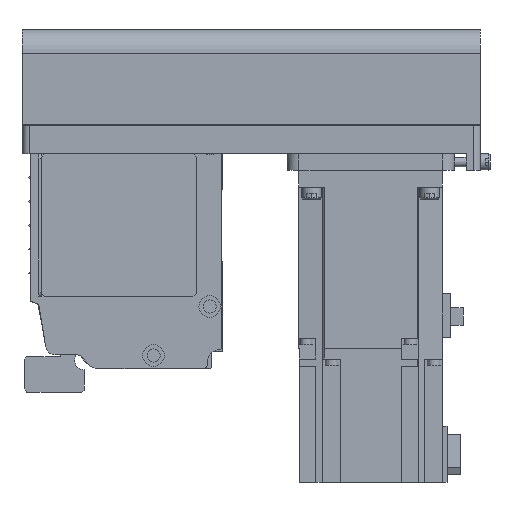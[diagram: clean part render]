
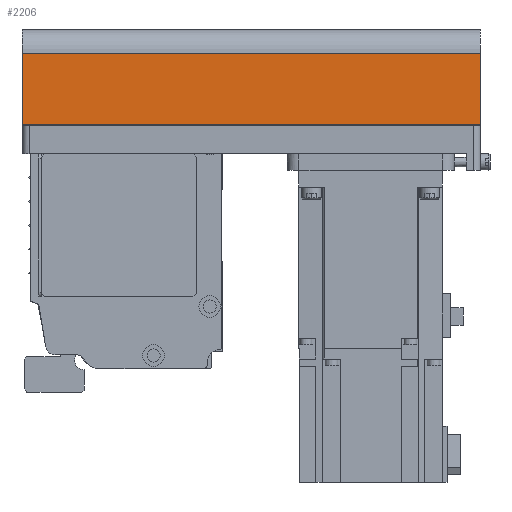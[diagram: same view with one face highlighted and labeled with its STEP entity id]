
A CAD part, left-side view. The second image highlights one B-rep face of the part: STEP entity #2206.
In plain terms, the highlighted planar face has unit normal (-1, 0, 0) as drawn and (0, -1, 0) by its records, which use the part's own axes.
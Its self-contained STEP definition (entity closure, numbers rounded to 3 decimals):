
#2206 = ADVANCED_FACE( '', ( #4577 ), #4578, .T. );
#4577 = FACE_OUTER_BOUND( '', #6993, .T. );
#4578 = PLANE( '', #6994 );
#6993 = EDGE_LOOP( '', ( #13043, #13044, #13045, #13046 ) );
#6994 = AXIS2_PLACEMENT_3D( '', #13047, #13048, #13049 );
#13043 = ORIENTED_EDGE( '', *, *, #14581, .F. );
#13044 = ORIENTED_EDGE( '', *, *, #14658, .F. );
#13045 = ORIENTED_EDGE( '', *, *, #15861, .T. );
#13046 = ORIENTED_EDGE( '', *, *, #15930, .T. );
#13047 = CARTESIAN_POINT( '', ( -192., -40., -12.1 ) );
#13048 = DIRECTION( '', ( 0., -1., 0. ) );
#13049 = DIRECTION( '', ( 0., 0., -1. ) );
#14581 = EDGE_CURVE( '', #17709, #17711, #17712, .T. );
#14658 = EDGE_CURVE( '', #17840, #17709, #17842, .T. );
#15861 = EDGE_CURVE( '', #17840, #19517, #19519, .T. );
#15930 = EDGE_CURVE( '', #19517, #17711, #19599, .T. );
#17709 = VERTEX_POINT( '', #21863 );
#17711 = VERTEX_POINT( '', #21866 );
#17712 = LINE( '', #21867, #21868 );
#17840 = VERTEX_POINT( '', #22030 );
#17842 = LINE( '', #22033, #22034 );
#19517 = VERTEX_POINT( '', #24346 );
#19519 = LINE( '', #24348, #24349 );
#19599 = LINE( '', #24453, #24454 );
#21863 = CARTESIAN_POINT( '', ( 0., -40., -12.1 ) );
#21866 = CARTESIAN_POINT( '', ( 0., -40., -42. ) );
#21867 = CARTESIAN_POINT( '', ( 0., -40., -12.1 ) );
#21868 = VECTOR( '', #25975, 1000. );
#22030 = CARTESIAN_POINT( '', ( -192., -40., -12.1 ) );
#22033 = CARTESIAN_POINT( '', ( -192., -40., -12.1 ) );
#22034 = VECTOR( '', #26089, 1000. );
#24346 = CARTESIAN_POINT( '', ( -192., -40., -42. ) );
#24348 = CARTESIAN_POINT( '', ( -192., -40., -12.1 ) );
#24349 = VECTOR( '', #27378, 1000. );
#24453 = CARTESIAN_POINT( '', ( -192., -40., -42. ) );
#24454 = VECTOR( '', #27436, 1000. );
#25975 = DIRECTION( '', ( 0., 0., -1. ) );
#26089 = DIRECTION( '', ( 1., 0., 0. ) );
#27378 = DIRECTION( '', ( 0., 0., -1. ) );
#27436 = DIRECTION( '', ( 1., 0., 0. ) );
